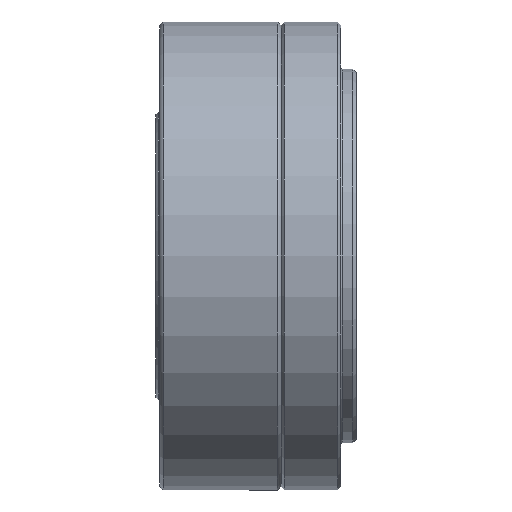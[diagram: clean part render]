
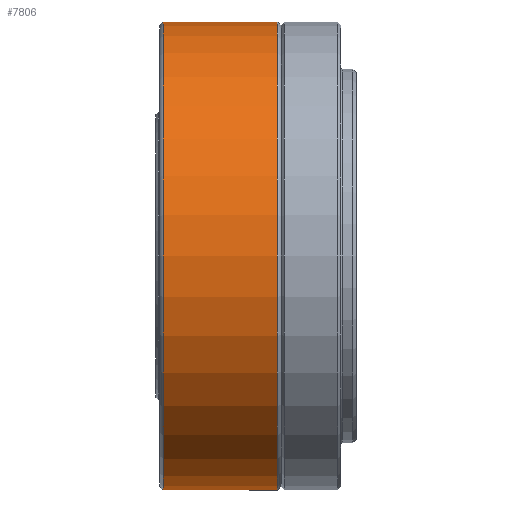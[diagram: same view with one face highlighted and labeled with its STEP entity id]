
A CAD part, front view. The second image highlights one B-rep face of the part: STEP entity #7806.
In plain terms, the highlighted cylindrical face has radius 31 mm (diameter 62 mm), a partial arc.
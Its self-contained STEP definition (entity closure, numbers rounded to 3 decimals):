
#283 = DIRECTION ( 'NONE',  ( 0., 0., 1. ) ) ;
#1096 = CARTESIAN_POINT ( 'NONE',  ( 8.499, -1.897, 62. ) ) ;
#1417 = DIRECTION ( 'NONE',  ( 0., 0., 1. ) ) ;
#1578 = DIRECTION ( 'NONE',  ( -1., 0., 0. ) ) ;
#1621 = CARTESIAN_POINT ( 'NONE',  ( 8.499, -1.897, 31. ) ) ;
#1841 = DIRECTION ( 'NONE',  ( -1., 0., 0. ) ) ;
#1957 = LINE ( 'NONE', #10562, #11983 ) ;
#1990 = VERTEX_POINT ( 'NONE', #12537 ) ;
#2034 = CYLINDRICAL_SURFACE ( 'NONE', #8161, 31. ) ;
#2066 = DIRECTION ( 'NONE',  ( 0., 0., 1. ) ) ;
#2122 = VERTEX_POINT ( 'NONE', #1621 ) ;
#2950 = LINE ( 'NONE', #8827, #7662 ) ;
#3976 = EDGE_LOOP ( 'NONE', ( #9327, #4982, #12262, #6935 ) ) ;
#4337 = DIRECTION ( 'NONE',  ( -1., 0., 0. ) ) ;
#4825 = EDGE_CURVE ( 'NONE', #2122, #1990, #1957, .T. ) ;
#4982 = ORIENTED_EDGE ( 'NONE', *, *, #5060, .T. ) ;
#5060 = EDGE_CURVE ( 'NONE', #2122, #12787, #6962, .T. ) ;
#6214 = DIRECTION ( 'NONE',  ( -1., 0., 0. ) ) ;
#6292 = CIRCLE ( 'NONE', #9433, 31. ) ;
#6369 = CARTESIAN_POINT ( 'NONE',  ( -9.716, -1.897, 62. ) ) ;
#6625 = EDGE_CURVE ( 'NONE', #1990, #8613, #6292, .T. ) ;
#6935 = ORIENTED_EDGE ( 'NONE', *, *, #6625, .F. ) ;
#6962 = CIRCLE ( 'NONE', #12435, 31. ) ;
#7662 = VECTOR ( 'NONE', #1841, 1000. ) ;
#7806 = ADVANCED_FACE ( 'NONE', ( #10000 ), #2034, .T. ) ;
#8046 = DIRECTION ( 'NONE',  ( -1., 0., 0. ) ) ;
#8161 = AXIS2_PLACEMENT_3D ( 'NONE', #6369, #4337, #1417 ) ;
#8272 = EDGE_CURVE ( 'NONE', #12787, #8613, #2950, .T. ) ;
#8613 = VERTEX_POINT ( 'NONE', #12472 ) ;
#8827 = CARTESIAN_POINT ( 'NONE',  ( -9.716, -1.897, 93. ) ) ;
#9327 = ORIENTED_EDGE ( 'NONE', *, *, #4825, .F. ) ;
#9433 = AXIS2_PLACEMENT_3D ( 'NONE', #12224, #6214, #283 ) ;
#10000 = FACE_OUTER_BOUND ( 'NONE', #3976, .T. ) ;
#10562 = CARTESIAN_POINT ( 'NONE',  ( -9.716, -1.897, 31. ) ) ;
#11883 = CARTESIAN_POINT ( 'NONE',  ( 8.499, -1.897, 93. ) ) ;
#11983 = VECTOR ( 'NONE', #1578, 1000. ) ;
#12224 = CARTESIAN_POINT ( 'NONE',  ( -6.613, -1.897, 62. ) ) ;
#12262 = ORIENTED_EDGE ( 'NONE', *, *, #8272, .T. ) ;
#12435 = AXIS2_PLACEMENT_3D ( 'NONE', #1096, #8046, #2066 ) ;
#12472 = CARTESIAN_POINT ( 'NONE',  ( -6.613, -1.897, 93. ) ) ;
#12537 = CARTESIAN_POINT ( 'NONE',  ( -6.613, -1.897, 31. ) ) ;
#12787 = VERTEX_POINT ( 'NONE', #11883 ) ;
